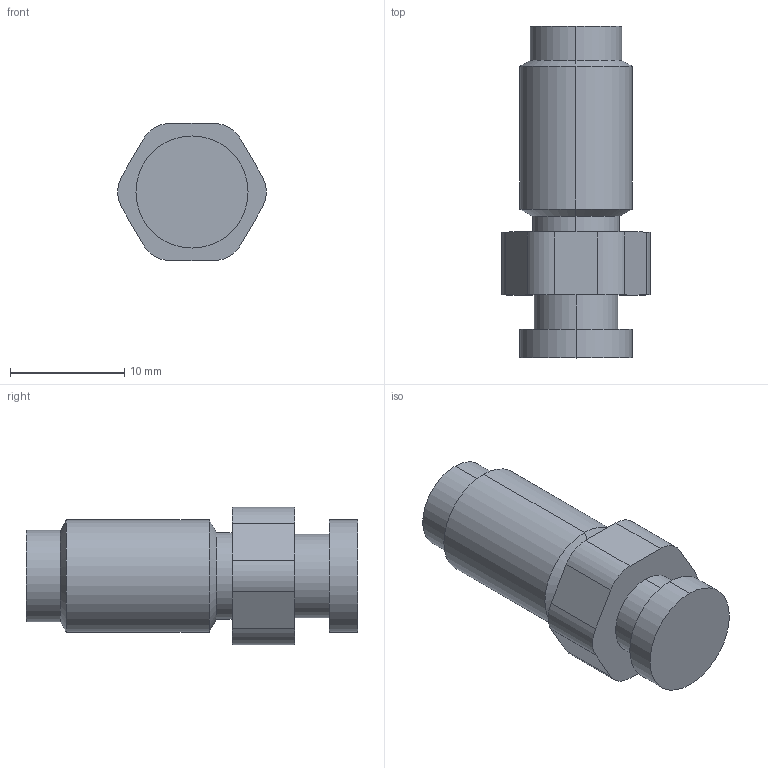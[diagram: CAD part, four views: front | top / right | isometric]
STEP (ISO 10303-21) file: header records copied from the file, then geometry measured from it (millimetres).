
FILE_DESCRIPTION (( 'STEP AP214' ), '1' );
FILE_NAME ('Verstellteil_K760609700.STEP', '2010-09-16T14:24:09', ( 'grass' ), ( '' ), 'SwSTEP 2.0', 'SolidWorks 2010', '' );
FILE_SCHEMA (( 'AUTOMOTIVE_DESIGN' ));
Length unit declared in the file: millimetre
Products named in the file (1): Verstellteil_K760609700
Bounding box: 13 x 29 x 12 mm (x, y, z)
Volume: 1774.9 mm3; surface area: 1589.8 mm2
Topology: 1 solids, 1 shells, 38 faces, 84 edges, 52 vertices
Faces by surface type: cylinder 18, plane 12, cone 8
Entity records: 1086 total; most frequent: DIRECTION 202, CARTESIAN_POINT 175, ORIENTED_EDGE 168, EDGE_CURVE 84, AXIS2_PLACEMENT_3D 79, VERTEX_POINT 52, VECTOR 44, LINE 44
